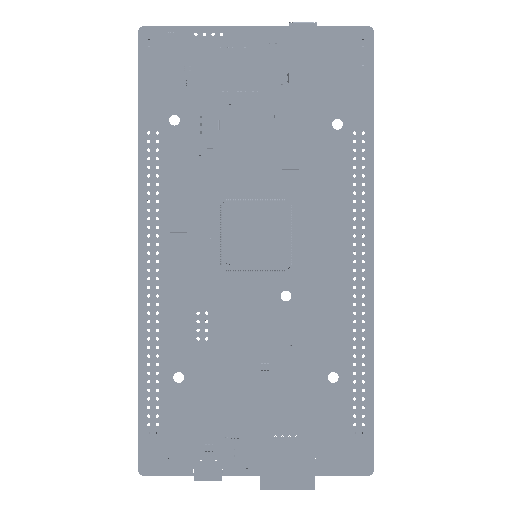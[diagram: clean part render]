
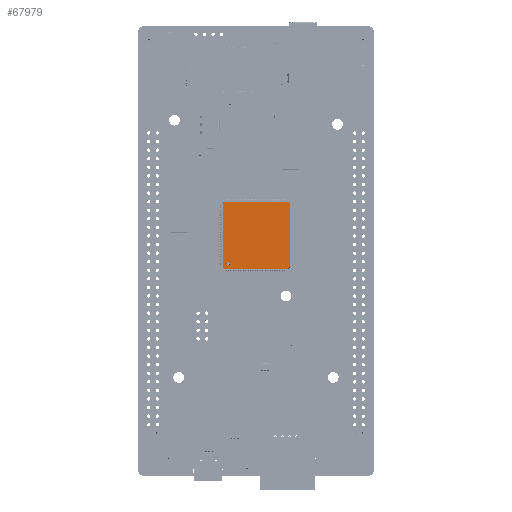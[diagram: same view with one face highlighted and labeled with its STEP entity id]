
A CAD part, top view. The second image highlights one B-rep face of the part: STEP entity #67979.
In plain terms, the highlighted planar face has unit normal (0, 0, 1) as drawn and (0, 1, 0) by its records, which use the part's own axes.
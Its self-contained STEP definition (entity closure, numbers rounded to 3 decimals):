
#56228 = VERTEX_POINT('',#56229);
#56229 = CARTESIAN_POINT('',(6.248,0.625,-17.674));
#56235 = EDGE_CURVE('',#56236,#56228,#56238,.T.);
#56236 = VERTEX_POINT('',#56237);
#56237 = CARTESIAN_POINT('',(6.248,0.625,-18.679));
#56238 = CIRCLE('',#56239,0.503);
#56239 = AXIS2_PLACEMENT_3D('',#56240,#56241,#56242);
#56240 = CARTESIAN_POINT('',(6.248,0.625,-18.176));
#56241 = DIRECTION('',(0.,1.,0.));
#56242 = DIRECTION('',(0.,0.,1.));
#66851 = EDGE_CURVE('',#66852,#66854,#66856,.T.);
#66852 = VERTEX_POINT('',#66853);
#66853 = CARTESIAN_POINT('',(7.767,0.625,-0.342));
#66854 = VERTEX_POINT('',#66855);
#66855 = CARTESIAN_POINT('',(7.767,0.625,-19.117));
#66856 = LINE('',#66857,#66858);
#66857 = CARTESIAN_POINT('',(7.767,0.625,0.278));
#66858 = VECTOR('',#66859,1.);
#66859 = DIRECTION('',(0.,0.,-1.));
#67136 = VERTEX_POINT('',#67137);
#67137 = CARTESIAN_POINT('',(-11.532,0.625,-19.625));
#67143 = EDGE_CURVE('',#67144,#67136,#67146,.T.);
#67144 = VERTEX_POINT('',#67145);
#67145 = CARTESIAN_POINT('',(7.243,0.625,-19.625));
#67146 = LINE('',#67147,#67148);
#67147 = CARTESIAN_POINT('',(7.864,0.625,-19.625));
#67148 = VECTOR('',#67149,1.);
#67149 = DIRECTION('',(-1.,0.,0.));
#67419 = VERTEX_POINT('',#67420);
#67420 = CARTESIAN_POINT('',(-12.039,0.625,-0.326));
#67426 = EDGE_CURVE('',#67427,#67419,#67429,.T.);
#67427 = VERTEX_POINT('',#67428);
#67428 = CARTESIAN_POINT('',(-12.039,0.625,-19.101));
#67429 = LINE('',#67430,#67431);
#67430 = CARTESIAN_POINT('',(-12.039,0.625,0.278));
#67431 = VECTOR('',#67432,1.);
#67432 = DIRECTION('',(0.,0.,1.));
#67702 = VERTEX_POINT('',#67703);
#67703 = CARTESIAN_POINT('',(7.259,0.625,0.181));
#67709 = EDGE_CURVE('',#67710,#67702,#67712,.T.);
#67710 = VERTEX_POINT('',#67711);
#67711 = CARTESIAN_POINT('',(-11.516,0.625,0.181));
#67712 = LINE('',#67713,#67714);
#67713 = CARTESIAN_POINT('',(7.864,0.625,0.181));
#67714 = VECTOR('',#67715,1.);
#67715 = DIRECTION('',(1.,0.,0.));
#67979 = ADVANCED_FACE('',(#67980,#67990),#68020,.T.);
#67980 = FACE_BOUND('',#67981,.T.);
#67981 = EDGE_LOOP('',(#67982,#67989));
#67982 = ORIENTED_EDGE('',*,*,#67983,.F.);
#67983 = EDGE_CURVE('',#56228,#56236,#67984,.T.);
#67984 = CIRCLE('',#67985,0.503);
#67985 = AXIS2_PLACEMENT_3D('',#67986,#67987,#67988);
#67986 = CARTESIAN_POINT('',(6.248,0.625,-18.176));
#67987 = DIRECTION('',(0.,1.,0.));
#67988 = DIRECTION('',(0.,0.,1.));
#67989 = ORIENTED_EDGE('',*,*,#56235,.F.);
#67990 = FACE_BOUND('',#67991,.T.);
#67991 = EDGE_LOOP('',(#67992,#67993,#67999,#68000,#68006,#68007,#68013,
    #68014));
#67992 = ORIENTED_EDGE('',*,*,#67709,.T.);
#67993 = ORIENTED_EDGE('',*,*,#67994,.T.);
#67994 = EDGE_CURVE('',#67702,#66852,#67995,.T.);
#67995 = LINE('',#67996,#67997);
#67996 = CARTESIAN_POINT('',(3.833,0.625,3.716));
#67997 = VECTOR('',#67998,1.);
#67998 = DIRECTION('',(0.696,0.,-0.718));
#67999 = ORIENTED_EDGE('',*,*,#66851,.T.);
#68000 = ORIENTED_EDGE('',*,*,#68001,.T.);
#68001 = EDGE_CURVE('',#66854,#67144,#68002,.T.);
#68002 = LINE('',#68003,#68004);
#68003 = CARTESIAN_POINT('',(13.317,0.625,-13.737));
#68004 = VECTOR('',#68005,1.);
#68005 = DIRECTION('',(-0.718,0.,-0.696));
#68006 = ORIENTED_EDGE('',*,*,#67143,.T.);
#68007 = ORIENTED_EDGE('',*,*,#68008,.T.);
#68008 = EDGE_CURVE('',#67136,#67427,#68009,.T.);
#68009 = LINE('',#68010,#68011);
#68010 = CARTESIAN_POINT('',(-15.753,0.625,-15.271));
#68011 = VECTOR('',#68012,1.);
#68012 = DIRECTION('',(-0.696,0.,0.718));
#68013 = ORIENTED_EDGE('',*,*,#67426,.T.);
#68014 = ORIENTED_EDGE('',*,*,#68015,.T.);
#68015 = EDGE_CURVE('',#67419,#67710,#68016,.T.);
#68016 = LINE('',#68017,#68018);
#68017 = CARTESIAN_POINT('',(-5.67,0.625,5.849));
#68018 = VECTOR('',#68019,1.);
#68019 = DIRECTION('',(0.718,0.,0.696));
#68020 = PLANE('',#68021);
#68021 = AXIS2_PLACEMENT_3D('',#68022,#68023,#68024);
#68022 = CARTESIAN_POINT('',(0.,0.625,0.));
#68023 = DIRECTION('',(0.,1.,0.));
#68024 = DIRECTION('',(0.,0.,1.));
